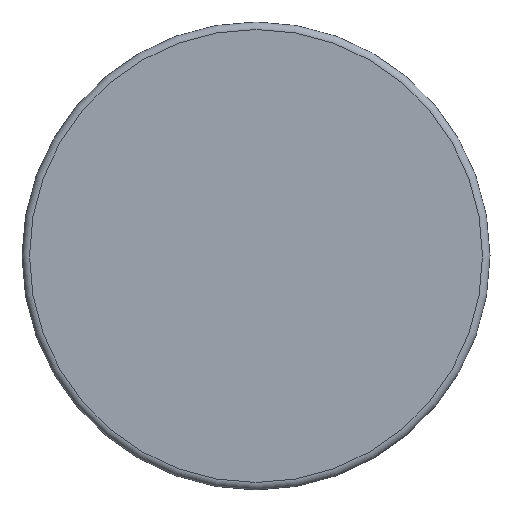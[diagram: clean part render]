
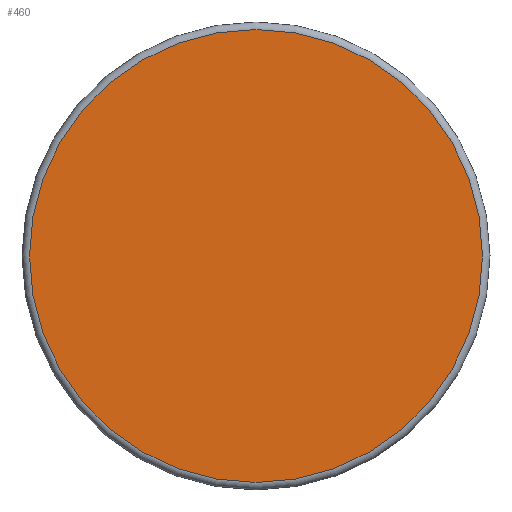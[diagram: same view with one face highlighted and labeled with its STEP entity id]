
A CAD part, top view. The second image highlights one B-rep face of the part: STEP entity #460.
In plain terms, the highlighted planar face has unit normal (0, 0, 1).
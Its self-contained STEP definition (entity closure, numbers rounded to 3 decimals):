
#429=CARTESIAN_POINT('',(300.05,0.,234.));
#430=VERTEX_POINT('',#429);
#431=CARTESIAN_POINT('',(0.,0.,234.));
#432=DIRECTION('',(0.0,0.0,-1.0));
#433=DIRECTION('',(-1.0,0.0,0.0));
#434=AXIS2_PLACEMENT_3D('',#431,#432,#433);
#435=CIRCLE('',#434,300.05);
#436=EDGE_CURVE('',#430,#430,#435,.T.);
#452=CARTESIAN_POINT('',(0.,0.,234.));
#453=DIRECTION('',(0.0,0.0,-1.0));
#454=DIRECTION('',(1.0,0.0,0.0));
#455=AXIS2_PLACEMENT_3D('',#452,#453,#454);
#456=PLANE('',#455);
#457=ORIENTED_EDGE('',*,*,#436,.F.);
#458=EDGE_LOOP('',(#457));
#459=FACE_OUTER_BOUND('',#458,.T.);
#460=ADVANCED_FACE('',(#459),#456,.F.);
